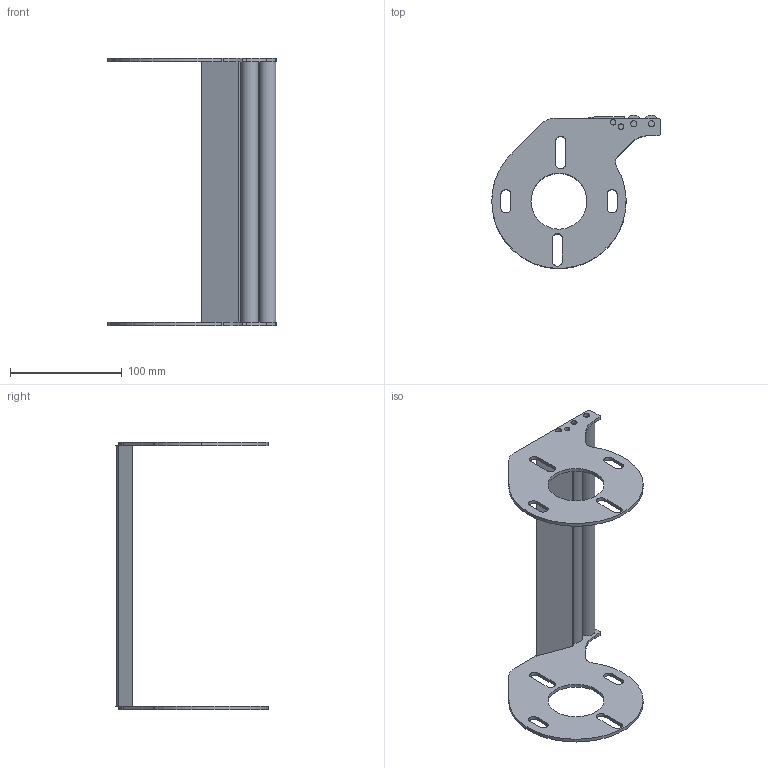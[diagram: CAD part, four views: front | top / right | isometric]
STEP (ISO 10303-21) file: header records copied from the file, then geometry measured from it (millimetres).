
FILE_DESCRIPTION (( 'STEP AP214' ), '1' );
FILE_NAME ('F2 750 TG1M.step', '2017-04-05T07:35:15', ( '' ), ( '' ), 'SwSTEP 2.0', 'SolidWorks 2015', '' );
FILE_SCHEMA (( 'AUTOMOTIVE_DESIGN' ));
Length unit declared in the file: millimetre
Products named in the file (1): F2 750 TG1M
Bounding box: 150.4 x 136.54 x 239 mm (x, y, z)
Volume: 210675.7 mm3; surface area: 89955.7 mm2
Topology: 1 solids, 1 shells, 114 faces, 312 edges, 204 vertices
Faces by surface type: plane 61, cylinder 53
Entity records: 4838 total; most frequent: DIRECTION 656, CARTESIAN_POINT 631, ORIENTED_EDGE 624, EDGE_CURVE 312, AXIS2_PLACEMENT_3D 229, VERTEX_POINT 204, LINE 198, VECTOR 198
